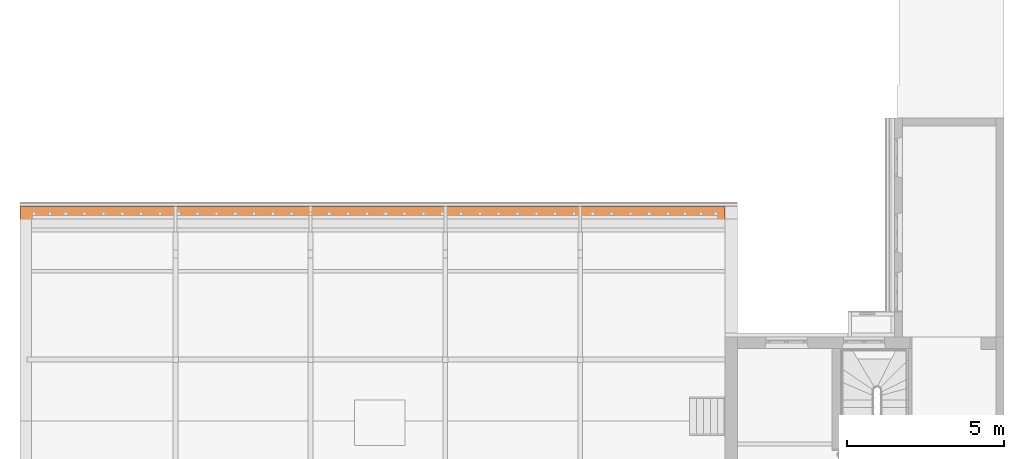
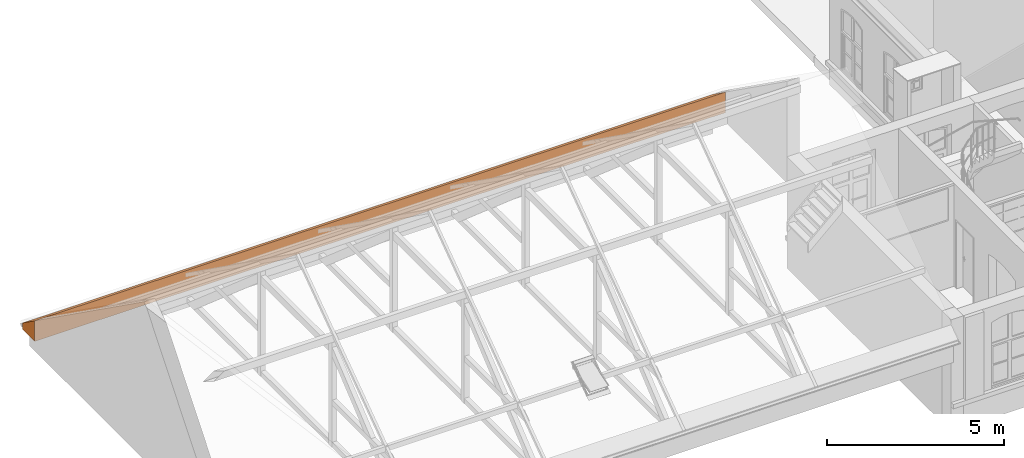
"""IFC4 building model written with IfcOpenShell, lengths in metres."""

from ifc_helpers import new_model, entity, si_unit, converted_unit, derived_unit, frame, origin, place, context, subcontext, project, spatial, faceted_brep, element, save


model = new_model("IFC4")

# Units and contexts
model_context = context("Model", 3, precision=1e-05, world=origin())
body_context = subcontext(model_context, "Body", "Model", "MODEL_VIEW")
ifc_project = project(units=[si_unit("LENGTHUNIT", "METRE"), si_unit("AREAUNIT", "SQUARE_METRE"), si_unit("VOLUMEUNIT", "CUBIC_METRE"), si_unit("MASSUNIT", "GRAM", prefix="KILO"), converted_unit("PLANEANGLEUNIT", "DEGREE", entity("IfcPlaneAngleMeasure", 0.0174532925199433), si_unit("PLANEANGLEUNIT", "RADIAN"), dimensions=[0, 0, 0, 0, 0, 0, 0]), derived_unit("THERMALTRANSMITTANCEUNIT", [(si_unit("POWERUNIT", "WATT"), 1), (si_unit("THERMODYNAMICTEMPERATUREUNIT", "KELVIN"), -1), (si_unit("LENGTHUNIT", "METRE"), -2)]), derived_unit("VOLUMETRICFLOWRATEUNIT", [(si_unit("LENGTHUNIT", "METRE"), 3), (converted_unit("TIMEUNIT", "hour", entity("IfcTimeMeasure", 3600.0), si_unit("TIMEUNIT", "SECOND"), dimensions=[0, 0, 1, 0, 0, 0, 0]), -1), (si_unit("LENGTHUNIT", "METRE"), -1)])], contexts=[model_context])

# Building, storeys
building_placement = place(None, origin())
building = spatial("IfcBuilding", under=ifc_project, at=building_placement, Name="Bestandsgebäude A - Sporthalle / Wohnhaus (TB 100-499)   ANPASSEN !!!", CompositionType="ELEMENT")
storey_1_placement = place(building_placement, frame((0.0, 0.0, 3.87)))
storey_1 = spatial("IfcBuildingStorey", under=building, at=storey_1_placement, Name="Geb. A 1. Obergeschoss (TB 250-299)", CompositionType="ELEMENT", Elevation=3.87)
storey_2_placement = place(storey_1_placement, frame((0.0, 0.0, 3.87)))
storey_2 = spatial("IfcBuildingStorey", under=storey_1, at=storey_2_placement, Name="Architektur (TB 250-259)", CompositionType="PARTIAL")

# Proxy
proxy_placement = place(storey_2_placement, frame((-31.37, 12.72, -1.02)))
element("IfcBuildingElementProxy", 1, at=proxy_placement, inside=storey_2, context=body_context, shape_type="Brep", body=[
    faceted_brep([(0.0, 0.0, 0.0), (0.0, 0.0, 0.70911130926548), (22.47, 0.0, 0.709112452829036), (22.47, 0.0, 0.0), (22.47, 0.679045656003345, 0.225468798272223), (0.0, 0.679045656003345, 0.225467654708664), (0.0, 0.679045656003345, 0.0), (22.47, 0.679045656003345, 0.0)], [[[0, 1, 2, 3]], [[4, 5, 6, 7]], [[6, 5, 1, 0]], [[0, 3, 7, 6]], [[1, 5, 4, 2]], [[2, 4, 7, 3]]], orient=[[False], [False], [False], [False], [False], [False]]),
])

save(model, "model.ifc")
